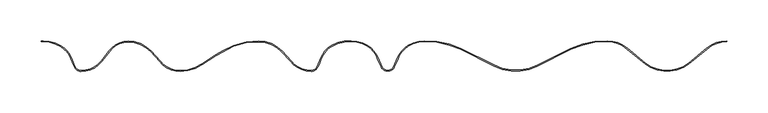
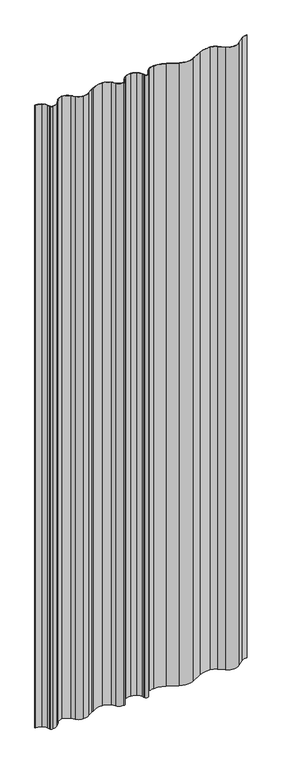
"""IFC4 building model written with IfcOpenShell, lengths in millimetres: plate geometry, Ritmica Couverture 834  : Ritmica Couverture 834 ."""

from ifc_helpers import new_model, si_unit, frame, origin, place, context, project, spatial, polyline, circle_curve, source, transform, mapped, element, save
from ifc_brep_helpers import plane_surface, cylinder_surface, revolved_surface, advanced_brep


def plate_bd1eb400(model_context):
    return source(origin(), model_context, "Body", "AdvancedBrep", [
        advanced_brep(
        [(-393.2391095, 30.1226373, 2588.190451), (-380.7879331, 15.3736407, 2588.190451), (-377.9067417, 8.1790879, 2588.190451), (-376.2463069, 4.7145146, 2588.190451), (-368.2557839, -0.3170511, 2588.190451), (-343.2838778, 11.7172084, 2588.190451), (-333.7374268, 23.7028833, 2588.190451), (-311.262648, 35.6878494, 2588.190451), (-283.7949346, 23.6921656, 2588.190451), (-272.6874551, 11.7053584, 2588.190451), (-247.7168686, -0.3316391, 2588.190451), (-220.9862336, 8.0906362, 2588.190451), (-203.6566719, 19.2268491, 2588.190451), (-196.2244931, 23.6239883, 2588.190451), (-152.05009, 35.8201732, 2588.190451), (-124.5823767, 23.8244894, 2588.190451), (-113.4748973, 11.8376824, 2588.190451), (-88.5011009, -0.1993146, 2588.190451), (-80.5132363, 4.8313742, 2588.190451), (-78.8524214, 8.2957655, 2588.190451), (-75.9704281, 15.4900347, 2588.190451), (-63.5176493, 30.2376326, 2588.190451), (-39.7563962, 35.9429092, 2588.190451), (-20.2159474, 30.4396884, 2588.190451), (-7.764771, 15.6906918, 2588.190451), (-4.8835795, 8.496139, 2588.190451), (-3.2231447, 5.0315657, 2588.190451), (12.7584529, 5.0306896, 2588.190451), (14.4192676, 8.4950807, 2588.190451), (17.3012479, 15.6893176, 2588.190451), (29.7540414, 30.4369489, 2588.190451), (49.2950931, 35.938027, 2588.190451), (93.042882, 26.7700498, 2588.190451), (133.5802573, 6.3859145, 2588.190451), (187.4841307, 6.3829593, 2588.190451), (228.0237409, 26.7626497, 2588.190451), (271.7725347, 35.9258301, 2588.190451), (295.5393439, 27.3213162, 2588.190451), (317.9693483, 8.6324584, 2588.190451), (370.826806, 8.6295606, 2588.190451), (393.5611737, 27.3160524, 2588.190451), (417.3292902, 35.9179602, 2588.190451), (417.3289811, 36.9179602, 2588.190451), (392.9211304, 28.0843912, 2588.190451), (370.2071227, 9.4148599, 2588.190451), (318.5891177, 9.4176897, 2588.190451), (296.1794714, 28.0895849, 2588.190451), (271.7903563, 36.925825, 2588.190451), (227.5823609, 27.6600121, 2588.190451), (187.0349808, 7.2764157, 2588.190451), (134.0295052, 7.2793217, 2588.190451), (93.4843603, 27.6673639, 2588.190451), (49.2773822, 36.9380239, 2588.190451), (29.2323103, 31.2900589, 2588.190451), (16.3728739, 16.060965, 2588.190451), (13.5032594, 8.8975968, 2588.190451), (11.8567174, 5.4629778, 2588.190451), (-2.3213618, 5.4637551, 2588.190451), (-3.9675273, 8.8985546, 2588.190451), (-6.8363563, 16.0622374, 2588.190451), (-19.6941227, 31.2927412, 2588.190451), (-39.7239663, 36.9428938, 2588.190451), (-64.0338883, 31.0941005, 2588.190451), (-76.898788, 15.8617171, 2588.190451), (-79.7684295, 8.6982816, 2588.190451), (-81.4149718, 5.2636625, 2588.190451), (-88.5014083, 0.8006853, 2588.190451), (-112.7156551, 12.4895917, 2588.190451), (-123.8488779, 24.5041802, 2588.190451), (-152.0390386, 36.820171, 2588.190451), (-196.7450486, 24.4779182, 2588.190451), (-204.1817534, 20.0781013, 2588.190451), (-221.54196, 8.9221955, 2588.190451), (-247.7186194, 0.668361, 2588.190451), (-271.9283027, 12.3573646, 2588.190451), (-283.0614359, 24.3718564, 2588.190451), (-311.2625931, 36.6878494, 2588.190451), (-334.5448543, 24.2942372, 2588.190451), (-344.0660847, 12.3402271, 2588.190451), (-368.2557291, 0.6829489, 2588.190451), (-375.344524, 5.146704, 2588.190451), (-376.9906894, 8.5815035, 2588.190451), (-379.8601107, 15.7466654, 2588.190451), (-392.7213947, 30.9782272, 2588.190451), (-414.3303399, 36.9167406, 2588.190451), (-417.0000403, 36.9178585, 2588.190451), (-416.9997311, 35.9178585, 2588.190451), (-414.3303953, 35.9186838, 2588.190451), (-393.2391095, 30.1226373, 0.0), (-414.3303947, 35.9167406, 0.0), (-416.9997311, 35.9178585, 0.0), (-417.0000403, 36.9178585, 0.0), (-414.3307045, 36.9186837, 0.0), (-392.7213947, 30.9782272, 0.0), (-379.8601107, 15.7466654, 0.0), (-376.9906894, 8.5815035, 0.0), (-375.344524, 5.146704, 0.0), (-368.2557291, 0.6829489, 0.0), (-344.0660847, 12.3402271, 0.0), (-334.5448543, 24.2942372, 0.0), (-311.2625931, 36.6878494, 0.0), (-283.0614359, 24.3718564, 0.0), (-271.9283027, 12.3573646, 0.0), (-247.7186194, 0.668361, 0.0), (-221.54196, 8.9221955, 0.0), (-204.1817534, 20.0781013, 0.0), (-196.7450486, 24.4779182, 0.0), (-152.0390386, 36.820171, 0.0), (-123.8488779, 24.5041802, 0.0), (-112.7156551, 12.4895917, 0.0), (-88.5014083, 0.8006853, 0.0), (-81.4149718, 5.2636625, 0.0), (-79.7684295, 8.6982816, 0.0), (-76.898788, 15.8617171, 0.0), (-64.0338883, 31.0941005, 0.0), (-39.7239663, 36.9428938, 0.0), (-19.6941227, 31.2927412, 0.0), (-6.8363563, 16.0622374, 0.0), (-3.9675273, 8.8985546, 0.0), (-2.3213618, 5.4637551, 0.0), (11.8567174, 5.4629778, 0.0), (13.5032594, 8.8975968, 0.0), (16.3728739, 16.060965, 0.0), (29.2323103, 31.2900589, 0.0), (49.2773822, 36.9380239, 0.0), (93.4843603, 27.6673639, 0.0), (134.0295052, 7.2793217, 0.0), (187.0349808, 7.2764157, 0.0), (227.5823609, 27.6600121, 0.0), (271.7903563, 36.925825, 0.0), (296.1794714, 28.0895849, 0.0), (318.5891177, 9.4176897, 0.0), (370.2071227, 9.4148599, 0.0), (392.9211304, 28.0843912, 0.0), (417.3289811, 36.9179602, 0.0), (417.3292902, 35.9179602, 0.0), (393.5611737, 27.3160524, 0.0), (370.826806, 8.6295606, 0.0), (317.9693483, 8.6324584, 0.0), (295.5393439, 27.3213162, 0.0), (271.7725347, 35.9258301, 0.0), (228.0237409, 26.7626497, 0.0), (187.4841307, 6.3829593, 0.0), (133.5802573, 6.3859145, 0.0), (93.042882, 26.7700498, 0.0), (49.2950931, 35.938027, 0.0), (29.7540414, 30.4369489, 0.0), (17.3012479, 15.6893176, 0.0), (14.4192676, 8.4950807, 0.0), (12.7584529, 5.0306896, 0.0), (-3.2231447, 5.0315657, 0.0), (-4.8835795, 8.496139, 0.0), (-7.764771, 15.6906918, 0.0), (-20.2159474, 30.4396884, 0.0), (-39.7563962, 35.9429092, 0.0), (-63.5176493, 30.2376326, 0.0), (-75.9704281, 15.4900347, 0.0), (-78.8524214, 8.2957655, 0.0), (-80.5132363, 4.8313742, 0.0), (-88.5011009, -0.1993146, 0.0), (-113.4748973, 11.8376824, 0.0), (-124.5823767, 23.8244894, 0.0), (-152.05009, 35.8201732, 0.0), (-196.2244931, 23.6239883, 0.0), (-203.6566719, 19.2268491, 0.0), (-220.9862336, 8.0906362, 0.0), (-247.7168686, -0.3316391, 0.0), (-272.6874551, 11.7053584, 0.0), (-283.7949346, 23.6921656, 0.0), (-311.262648, 35.6878494, 0.0), (-333.7374268, 23.7028833, 0.0), (-343.2838778, 11.7172084, 0.0), (-368.2557839, -0.3170511, 0.0), (-376.2463069, 4.7145146, 0.0), (-377.9067417, 8.1790879, 0.0), (-380.7879331, 15.3736407, 0.0)],
        [
            (0, 1, circle_curve(frame((-409.4563835, 3.801763, 2588.190451), z_axis=(0.0, 0.0, -1.0), x_axis=(-0.9999999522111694, -0.00030915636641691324, 0.0)), 30.9158276)),
            (1, 2),
            (2, 3),
            (3, 4, circle_curve(frame((-368.2552981, 8.5442934, 2588.190451), z_axis=(0.0, 0.0, 1.0), x_axis=(-0.9999999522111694, -0.00030915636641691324, 0.0)), 8.8613445)),
            (4, 5, circle_curve(frame((-368.2540338, 31.605648, 2588.190451), z_axis=(0.0, 0.0, 1.0), x_axis=(-0.9999999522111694, -0.00030915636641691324, 0.0)), 31.9226992)),
            (5, 6),
            (6, 7, circle_curve(frame((-311.2641316, 8.6252612, 2588.190451), z_axis=(0.0, 0.0, -1.0), x_axis=(-0.9999999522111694, -0.00030915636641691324, 0.0)), 27.0625882)),
            (7, 8, circle_curve(frame((-311.2647011, -1.762475, 2588.190451), z_axis=(0.0, 0.0, -1.0), x_axis=(-0.9999999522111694, -0.00030915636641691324, 0.0)), 37.4503244)),
            (8, 9),
            (9, 10, circle_curve(frame((-247.7151185, 31.59106, 2588.190451), z_axis=(0.0, 0.0, 1.0), x_axis=(-0.9999999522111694, -0.00030915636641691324, 0.0)), 31.9226992)),
            (10, 11, circle_curve(frame((-247.8850462, 46.8321336, 2588.190451), z_axis=(0.0, 0.0, 1.0), x_axis=(-0.9999999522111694, -0.00030915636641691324, 0.0)), 47.1640725)),
            (11, 12),
            (12, 13),
            (13, 14, circle_curve(frame((-153.802572, -43.929976, 2588.190451), z_axis=(0.0, 0.0, -1.0), x_axis=(-0.9999999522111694, -0.00030915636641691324, 0.0)), 79.769402)),
            (14, 15, circle_curve(frame((-152.0521432, -1.6301512, 2588.190451), z_axis=(0.0, 0.0, -1.0), x_axis=(-0.9999999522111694, -0.00030915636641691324, 0.0)), 37.4503244)),
            (15, 16),
            (16, 17, circle_curve(frame((-88.5109087, 31.7060655, 2588.190451), z_axis=(0.0, 0.0, 1.0), x_axis=(-0.9999999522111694, -0.00030915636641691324, 0.0)), 31.9053816)),
            (17, 18, circle_curve(frame((-88.5038249, 8.6620294, 2588.190451), z_axis=(0.0, 0.0, 1.0), x_axis=(-0.9999999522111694, -0.00030915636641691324, 0.0)), 8.8613444)),
            (18, 19),
            (19, 20),
            (20, 21, circle_curve(frame((-47.5439746, 4.1182392, 2588.190451), z_axis=(0.0, 0.0, -1.0), x_axis=(-0.9999999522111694, -0.00030915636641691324, 0.0)), 30.6166783)),
            (21, 22, circle_curve(frame((-42.427991, -5.2633706, 2588.190451), z_axis=(0.0, 0.0, -1.0), x_axis=(-0.9999999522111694, -0.00030915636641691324, 0.0)), 41.2927948)),
            (22, 23, circle_curve(frame((-39.758449, -1.5074152, 2588.190451), z_axis=(0.0, 0.0, -1.0), x_axis=(-0.9999999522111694, -0.00030915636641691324, 0.0)), 37.4503244)),
            (23, 24, circle_curve(frame((-36.1924841, 4.3220457, 2588.190451), z_axis=(0.0, 0.0, -1.0), x_axis=(-0.9999999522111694, -0.00030915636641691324, 0.0)), 30.6166783)),
            (24, 25),
            (25, 26),
            (26, 27, circle_curve(frame((4.7678641, 8.8613445, 2588.190451), z_axis=(0.0, 0.0, 1.0), x_axis=(-0.9999999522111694, -0.00030915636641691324, 0.0)), 8.8613445)),
            (27, 28),
            (28, 29),
            (29, 30, circle_curve(frame((45.7277143, 4.3175545, 2588.190451), z_axis=(0.0, 0.0, -1.0), x_axis=(-0.9999999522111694, -0.00030915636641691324, 0.0)), 30.6166783)),
            (30, 31, circle_curve(frame((49.29304, -1.5122973, 2588.190451), z_axis=(0.0, 0.0, -1.0), x_axis=(-0.9999999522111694, -0.00030915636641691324, 0.0)), 37.4503244)),
            (31, 32, circle_curve(frame((52.5908654, -57.297116, 2588.190451), z_axis=(0.0, 0.0, -1.0), x_axis=(-0.9999999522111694, -0.00030915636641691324, 0.0)), 93.293376)),
            (32, 33),
            (33, 34, circle_curve(frame((160.5351329, 59.9903423, 2588.190451), z_axis=(0.0, 0.0, 1.0), x_axis=(-0.9999999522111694, -0.00030915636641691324, 0.0)), 60.0)),
            (34, 35),
            (35, 36, circle_curve(frame((268.4665395, -57.308951, 2588.190451), z_axis=(0.0, 0.0, -1.0), x_axis=(-0.9999999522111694, -0.00030915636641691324, 0.0)), 93.293376)),
            (36, 37, circle_curve(frame((271.770499, -1.2055902, 2588.190451), z_axis=(0.0, 0.0, -1.0), x_axis=(-0.9999999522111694, -0.00030915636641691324, 0.0)), 37.1314203)),
            (37, 38),
            (38, 39, circle_curve(frame((344.4000154, 43.9851845, 2588.190451), z_axis=(0.0, 0.0, 1.0), x_axis=(-0.9999999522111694, -0.00030915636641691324, 0.0)), 44.1406321)),
            (39, 40),
            (40, 41, circle_curve(frame((417.3268906, -1.2134601, 2588.190451), z_axis=(0.0, 0.0, -1.0), x_axis=(-0.9999999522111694, -0.00030915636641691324, 0.0)), 37.1314203)),
            (41, 42),
            (42, 43, circle_curve(frame((417.3268906, -1.2134601, 2588.190451), z_axis=(0.0, 0.0, 1.0), x_axis=(-0.9999999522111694, -0.00030915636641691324, 0.0)), 38.1314203)),
            (43, 44),
            (44, 45, circle_curve(frame((344.4000154, 43.9851845, 2588.190451), z_axis=(0.0, 0.0, -1.0), x_axis=(-0.9999999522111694, -0.00030915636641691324, 0.0)), 43.1406321)),
            (45, 46),
            (46, 47, circle_curve(frame((271.770499, -1.2055902, 2588.190451), z_axis=(0.0, 0.0, 1.0), x_axis=(-0.9999999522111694, -0.00030915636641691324, 0.0)), 38.1314203)),
            (47, 48, circle_curve(frame((268.4665395, -57.308951, 2588.190451), z_axis=(0.0, 0.0, 1.0), x_axis=(-0.9999999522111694, -0.00030915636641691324, 0.0)), 94.293376)),
            (48, 49),
            (49, 50, circle_curve(frame((160.5351329, 59.9903423, 2588.190451), z_axis=(0.0, 0.0, -1.0), x_axis=(-0.9999999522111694, -0.00030915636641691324, 0.0)), 59.0)),
            (50, 51),
            (51, 52, circle_curve(frame((52.5908654, -57.297116, 2588.190451), z_axis=(0.0, 0.0, 1.0), x_axis=(-0.9999999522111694, -0.00030915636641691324, 0.0)), 94.293376)),
            (52, 53, circle_curve(frame((49.29304, -1.5122973, 2588.190451), z_axis=(0.0, 0.0, 1.0), x_axis=(-0.9999999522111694, -0.00030915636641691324, 0.0)), 38.4503244)),
            (53, 54, circle_curve(frame((45.7277143, 4.3175545, 2588.190451), z_axis=(0.0, 0.0, 1.0), x_axis=(-0.9999999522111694, -0.00030915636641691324, 0.0)), 31.6166783)),
            (54, 55),
            (55, 56),
            (56, 57, circle_curve(frame((4.7678641, 8.8613445, 2588.190451), z_axis=(0.0, 0.0, -1.0), x_axis=(-0.9999999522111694, -0.00030915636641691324, 0.0)), 7.8613445)),
            (57, 58),
            (58, 59),
            (59, 60, circle_curve(frame((-36.1924841, 4.3220457, 2588.190451), z_axis=(0.0, 0.0, 1.0), x_axis=(-0.9999999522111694, -0.00030915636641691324, 0.0)), 31.6166783)),
            (60, 61, circle_curve(frame((-39.758449, -1.5074152, 2588.190451), z_axis=(0.0, 0.0, 1.0), x_axis=(-0.9999999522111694, -0.00030915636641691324, 0.0)), 38.4503244)),
            (61, 62, circle_curve(frame((-42.427991, -5.2633706, 2588.190451), z_axis=(0.0, 0.0, 1.0), x_axis=(-0.9999999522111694, -0.00030915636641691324, 0.0)), 42.2927948)),
            (62, 63, circle_curve(frame((-47.5439746, 4.1182392, 2588.190451), z_axis=(0.0, 0.0, 1.0), x_axis=(-0.9999999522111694, -0.00030915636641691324, 0.0)), 31.6166782)),
            (63, 64),
            (64, 65),
            (65, 66, circle_curve(frame((-88.5038249, 8.6620294, 2588.190451), z_axis=(0.0, 0.0, -1.0), x_axis=(-0.9999999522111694, -0.00030915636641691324, 0.0)), 7.8613444)),
            (66, 67, circle_curve(frame((-88.5109087, 31.7060655, 2588.190451), z_axis=(0.0, 0.0, -1.0), x_axis=(-0.9999999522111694, -0.00030915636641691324, 0.0)), 30.9053816)),
            (67, 68),
            (68, 69, circle_curve(frame((-152.0521432, -1.6301512, 2588.190451), z_axis=(0.0, 0.0, 1.0), x_axis=(-0.9999999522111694, -0.00030915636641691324, 0.0)), 38.4503244)),
            (69, 70, circle_curve(frame((-153.802572, -43.929976, 2588.190451), z_axis=(0.0, 0.0, 1.0), x_axis=(-0.9999999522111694, -0.00030915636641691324, 0.0)), 80.769402)),
            (70, 71),
            (71, 72),
            (72, 73, circle_curve(frame((-247.8850462, 46.8321336, 2588.190451), z_axis=(0.0, 0.0, -1.0), x_axis=(-0.9999999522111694, -0.00030915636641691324, 0.0)), 46.1640725)),
            (73, 74, circle_curve(frame((-247.7151185, 31.59106, 2588.190451), z_axis=(0.0, 0.0, -1.0), x_axis=(-0.9999999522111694, -0.00030915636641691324, 0.0)), 30.9226992)),
            (74, 75),
            (75, 76, circle_curve(frame((-311.2647011, -1.762475, 2588.190451), z_axis=(0.0, 0.0, 1.0), x_axis=(-0.9999999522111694, -0.00030915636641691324, 0.0)), 38.4503244)),
            (76, 77, circle_curve(frame((-311.2641316, 8.6252612, 2588.190451), z_axis=(0.0, 0.0, 1.0), x_axis=(-0.9999999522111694, -0.00030915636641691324, 0.0)), 28.0625882)),
            (77, 78),
            (78, 79, circle_curve(frame((-368.2540338, 31.605648, 2588.190451), z_axis=(0.0, 0.0, -1.0), x_axis=(-0.9999999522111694, -0.00030915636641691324, 0.0)), 30.9226992)),
            (79, 80, circle_curve(frame((-368.2552981, 8.5442934, 2588.190451), z_axis=(0.0, 0.0, -1.0), x_axis=(-0.9999999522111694, -0.00030915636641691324, 0.0)), 7.8613445)),
            (80, 81),
            (81, 82),
            (82, 83, circle_curve(frame((-409.4563835, 3.801763, 2588.190451), z_axis=(0.0, 0.0, 1.0), x_axis=(-0.9999999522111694, -0.00030915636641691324, 0.0)), 31.9158276)),
            (83, 84, circle_curve(frame((-414.3326585, -5.3760542, 2588.190451), z_axis=(0.0, 0.0, 1.0), x_axis=(-0.9999999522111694, -0.00030915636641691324, 0.0)), 42.2927949)),
            (84, 85),
            (85, 86),
            (86, 87),
            (87, 0, circle_curve(frame((-414.3326585, -5.3760542, 2588.190451), z_axis=(0.0, 0.0, -1.0), x_axis=(-0.9999999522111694, -0.00030915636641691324, 0.0)), 41.2927949)),
            (88, 89, circle_curve(frame((-414.3326585, -5.3760542, 0.0), z_axis=(0.0, 0.0, 1.0), x_axis=(-0.9999999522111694, -0.00030915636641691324, 0.0)), 41.2927949)),
            (89, 90),
            (90, 91),
            (91, 92),
            (92, 93, circle_curve(frame((-414.3326585, -5.3760542, 0.0), z_axis=(0.0, 0.0, -1.0), x_axis=(-0.9999999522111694, -0.00030915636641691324, 0.0)), 42.2927949)),
            (93, 94, circle_curve(frame((-409.4563835, 3.801763, 0.0), z_axis=(0.0, 0.0, -1.0), x_axis=(-0.9999999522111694, -0.00030915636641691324, 0.0)), 31.9158276)),
            (94, 95),
            (95, 96),
            (96, 97, circle_curve(frame((-368.2552981, 8.5442934, 0.0), z_axis=(0.0, 0.0, 1.0), x_axis=(-0.9999999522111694, -0.00030915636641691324, 0.0)), 7.8613445)),
            (97, 98, circle_curve(frame((-368.2540338, 31.605648, 0.0), z_axis=(0.0, 0.0, 1.0), x_axis=(-0.9999999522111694, -0.00030915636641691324, 0.0)), 30.9226992)),
            (98, 99),
            (99, 100, circle_curve(frame((-311.2641316, 8.6252612, 0.0), z_axis=(0.0, 0.0, -1.0), x_axis=(-0.9999999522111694, -0.00030915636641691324, 0.0)), 28.0625882)),
            (100, 101, circle_curve(frame((-311.2647011, -1.762475, 0.0), z_axis=(0.0, 0.0, -1.0), x_axis=(-0.9999999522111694, -0.00030915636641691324, 0.0)), 38.4503244)),
            (101, 102),
            (102, 103, circle_curve(frame((-247.7151185, 31.59106, 0.0), z_axis=(0.0, 0.0, 1.0), x_axis=(-0.9999999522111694, -0.00030915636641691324, 0.0)), 30.9226992)),
            (103, 104, circle_curve(frame((-247.8850462, 46.8321336, 0.0), z_axis=(0.0, 0.0, 1.0), x_axis=(-0.9999999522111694, -0.00030915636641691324, 0.0)), 46.1640725)),
            (104, 105),
            (105, 106),
            (106, 107, circle_curve(frame((-153.802572, -43.929976, 0.0), z_axis=(0.0, 0.0, -1.0), x_axis=(-0.9999999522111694, -0.00030915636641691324, 0.0)), 80.769402)),
            (107, 108, circle_curve(frame((-152.0521432, -1.6301512, 0.0), z_axis=(0.0, 0.0, -1.0), x_axis=(-0.9999999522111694, -0.00030915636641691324, 0.0)), 38.4503244)),
            (108, 109),
            (109, 110, circle_curve(frame((-88.5109087, 31.7060655, 0.0), z_axis=(0.0, 0.0, 1.0), x_axis=(-0.9999999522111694, -0.00030915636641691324, 0.0)), 30.9053816)),
            (110, 111, circle_curve(frame((-88.5038249, 8.6620294, 0.0), z_axis=(0.0, 0.0, 1.0), x_axis=(-0.9999999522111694, -0.00030915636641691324, 0.0)), 7.8613444)),
            (111, 112),
            (112, 113),
            (113, 114, circle_curve(frame((-47.5439746, 4.1182392, 0.0), z_axis=(0.0, 0.0, -1.0), x_axis=(-0.9999999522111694, -0.00030915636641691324, 0.0)), 31.6166782)),
            (114, 115, circle_curve(frame((-42.427991, -5.2633706, 0.0), z_axis=(0.0, 0.0, -1.0), x_axis=(-0.9999999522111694, -0.00030915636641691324, 0.0)), 42.2927948)),
            (115, 116, circle_curve(frame((-39.758449, -1.5074152, 0.0), z_axis=(0.0, 0.0, -1.0), x_axis=(-0.9999999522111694, -0.00030915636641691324, 0.0)), 38.4503244)),
            (116, 117, circle_curve(frame((-36.1924841, 4.3220457, 0.0), z_axis=(0.0, 0.0, -1.0), x_axis=(-0.9999999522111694, -0.00030915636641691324, 0.0)), 31.6166783)),
            (117, 118),
            (118, 119),
            (119, 120, circle_curve(frame((4.7678641, 8.8613445, 0.0), z_axis=(0.0, 0.0, 1.0), x_axis=(-0.9999999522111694, -0.00030915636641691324, 0.0)), 7.8613445)),
            (120, 121),
            (121, 122),
            (122, 123, circle_curve(frame((45.7277143, 4.3175545, 0.0), z_axis=(0.0, 0.0, -1.0), x_axis=(-0.9999999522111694, -0.00030915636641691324, 0.0)), 31.6166783)),
            (123, 124, circle_curve(frame((49.29304, -1.5122973, 0.0), z_axis=(0.0, 0.0, -1.0), x_axis=(-0.9999999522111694, -0.00030915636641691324, 0.0)), 38.4503244)),
            (124, 125, circle_curve(frame((52.5908654, -57.297116, 0.0), z_axis=(0.0, 0.0, -1.0), x_axis=(-0.9999999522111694, -0.00030915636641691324, 0.0)), 94.293376)),
            (125, 126),
            (126, 127, circle_curve(frame((160.5351329, 59.9903423, 0.0), z_axis=(0.0, 0.0, 1.0), x_axis=(-0.9999999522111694, -0.00030915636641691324, 0.0)), 59.0)),
            (127, 128),
            (128, 129, circle_curve(frame((268.4665395, -57.308951, 0.0), z_axis=(0.0, 0.0, -1.0), x_axis=(-0.9999999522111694, -0.00030915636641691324, 0.0)), 94.293376)),
            (129, 130, circle_curve(frame((271.770499, -1.2055902, 0.0), z_axis=(0.0, 0.0, -1.0), x_axis=(-0.9999999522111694, -0.00030915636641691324, 0.0)), 38.1314203)),
            (130, 131),
            (131, 132, circle_curve(frame((344.4000154, 43.9851845, 0.0), z_axis=(0.0, 0.0, 1.0), x_axis=(-0.9999999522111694, -0.00030915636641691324, 0.0)), 43.1406321)),
            (132, 133),
            (133, 134, circle_curve(frame((417.3268906, -1.2134601, 0.0), z_axis=(0.0, 0.0, -1.0), x_axis=(-0.9999999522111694, -0.00030915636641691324, 0.0)), 38.1314203)),
            (134, 135),
            (135, 136, circle_curve(frame((417.3268906, -1.2134601, 0.0), z_axis=(0.0, 0.0, 1.0), x_axis=(-0.9999999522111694, -0.00030915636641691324, 0.0)), 37.1314203)),
            (136, 137),
            (137, 138, circle_curve(frame((344.4000154, 43.9851845, 0.0), z_axis=(0.0, 0.0, -1.0), x_axis=(-0.9999999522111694, -0.00030915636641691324, 0.0)), 44.1406321)),
            (138, 139),
            (139, 140, circle_curve(frame((271.770499, -1.2055902, 0.0), z_axis=(0.0, 0.0, 1.0), x_axis=(-0.9999999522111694, -0.00030915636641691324, 0.0)), 37.1314203)),
            (140, 141, circle_curve(frame((268.4665395, -57.308951, 0.0), z_axis=(0.0, 0.0, 1.0), x_axis=(-0.9999999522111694, -0.00030915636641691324, 0.0)), 93.293376)),
            (141, 142),
            (142, 143, circle_curve(frame((160.5351329, 59.9903423, 0.0), z_axis=(0.0, 0.0, -1.0), x_axis=(-0.9999999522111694, -0.00030915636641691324, 0.0)), 60.0)),
            (143, 144),
            (144, 145, circle_curve(frame((52.5908654, -57.297116, 0.0), z_axis=(0.0, 0.0, 1.0), x_axis=(-0.9999999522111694, -0.00030915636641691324, 0.0)), 93.293376)),
            (145, 146, circle_curve(frame((49.29304, -1.5122973, 0.0), z_axis=(0.0, 0.0, 1.0), x_axis=(-0.9999999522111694, -0.00030915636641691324, 0.0)), 37.4503244)),
            (146, 147, circle_curve(frame((45.7277143, 4.3175545, 0.0), z_axis=(0.0, 0.0, 1.0), x_axis=(-0.9999999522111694, -0.00030915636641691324, 0.0)), 30.6166783)),
            (147, 148),
            (148, 149),
            (149, 150, circle_curve(frame((4.7678641, 8.8613445, 0.0), z_axis=(0.0, 0.0, -1.0), x_axis=(-0.9999999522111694, -0.00030915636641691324, 0.0)), 8.8613445)),
            (150, 151),
            (151, 152),
            (152, 153, circle_curve(frame((-36.1924841, 4.3220457, 0.0), z_axis=(0.0, 0.0, 1.0), x_axis=(-0.9999999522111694, -0.00030915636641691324, 0.0)), 30.6166783)),
            (153, 154, circle_curve(frame((-39.758449, -1.5074152, 0.0), z_axis=(0.0, 0.0, 1.0), x_axis=(-0.9999999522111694, -0.00030915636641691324, 0.0)), 37.4503244)),
            (154, 155, circle_curve(frame((-42.427991, -5.2633706, 0.0), z_axis=(0.0, 0.0, 1.0), x_axis=(-0.9999999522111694, -0.00030915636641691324, 0.0)), 41.2927948)),
            (155, 156, circle_curve(frame((-47.5439746, 4.1182392, 0.0), z_axis=(0.0, 0.0, 1.0), x_axis=(-0.9999999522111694, -0.00030915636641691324, 0.0)), 30.6166783)),
            (156, 157),
            (157, 158),
            (158, 159, circle_curve(frame((-88.5038249, 8.6620294, 0.0), z_axis=(0.0, 0.0, -1.0), x_axis=(-0.9999999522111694, -0.00030915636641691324, 0.0)), 8.8613444)),
            (159, 160, circle_curve(frame((-88.5109087, 31.7060655, 0.0), z_axis=(0.0, 0.0, -1.0), x_axis=(-0.9999999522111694, -0.00030915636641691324, 0.0)), 31.9053816)),
            (160, 161),
            (161, 162, circle_curve(frame((-152.0521432, -1.6301512, 0.0), z_axis=(0.0, 0.0, 1.0), x_axis=(-0.9999999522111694, -0.00030915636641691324, 0.0)), 37.4503244)),
            (162, 163, circle_curve(frame((-153.802572, -43.929976, 0.0), z_axis=(0.0, 0.0, 1.0), x_axis=(-0.9999999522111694, -0.00030915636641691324, 0.0)), 79.769402)),
            (163, 164),
            (164, 165),
            (165, 166, circle_curve(frame((-247.8850462, 46.8321336, 0.0), z_axis=(0.0, 0.0, -1.0), x_axis=(-0.9999999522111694, -0.00030915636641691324, 0.0)), 47.1640725)),
            (166, 167, circle_curve(frame((-247.7151185, 31.59106, 0.0), z_axis=(0.0, 0.0, -1.0), x_axis=(-0.9999999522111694, -0.00030915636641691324, 0.0)), 31.9226992)),
            (167, 168),
            (168, 169, circle_curve(frame((-311.2647011, -1.762475, 0.0), z_axis=(0.0, 0.0, 1.0), x_axis=(-0.9999999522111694, -0.00030915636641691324, 0.0)), 37.4503244)),
            (169, 170, circle_curve(frame((-311.2641316, 8.6252612, 0.0), z_axis=(0.0, 0.0, 1.0), x_axis=(-0.9999999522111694, -0.00030915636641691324, 0.0)), 27.0625882)),
            (170, 171),
            (171, 172, circle_curve(frame((-368.2540338, 31.605648, 0.0), z_axis=(0.0, 0.0, -1.0), x_axis=(-0.9999999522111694, -0.00030915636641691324, 0.0)), 31.9226992)),
            (172, 173, circle_curve(frame((-368.2552981, 8.5442934, 0.0), z_axis=(0.0, 0.0, -1.0), x_axis=(-0.9999999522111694, -0.00030915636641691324, 0.0)), 8.8613445)),
            (173, 174),
            (174, 175),
            (175, 88, circle_curve(frame((-409.4563835, 3.801763, 0.0), z_axis=(0.0, 0.0, 1.0), x_axis=(-0.9999999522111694, -0.00030915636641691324, 0.0)), 30.9158276)),
            (87, 89),
            (88, 0),
            (175, 1),
            (174, 2),
            (173, 3),
            (172, 4),
            (171, 5),
            (170, 6),
            (169, 7),
            (168, 8),
            (167, 9),
            (166, 10),
            (165, 11),
            (164, 12),
            (163, 13),
            (162, 14),
            (161, 15),
            (160, 16),
            (159, 17),
            (158, 18),
            (157, 19),
            (156, 20),
            (155, 21),
            (154, 22),
            (153, 23),
            (152, 24),
            (151, 25),
            (150, 26),
            (149, 27),
            (148, 28),
            (147, 29),
            (146, 30),
            (145, 31),
            (144, 32),
            (143, 33),
            (142, 34),
            (141, 35),
            (140, 36),
            (139, 37),
            (138, 38),
            (137, 39),
            (136, 40),
            (135, 41),
            (134, 42),
            (133, 43),
            (132, 44),
            (131, 45),
            (130, 46),
            (129, 47),
            (128, 48),
            (127, 49),
            (126, 50),
            (125, 51),
            (124, 52),
            (123, 53),
            (122, 54),
            (121, 55),
            (120, 56),
            (119, 57),
            (118, 58),
            (117, 59),
            (116, 60),
            (115, 61),
            (114, 62),
            (113, 63),
            (112, 64),
            (111, 65),
            (110, 66),
            (109, 67),
            (108, 68),
            (107, 69),
            (106, 70),
            (105, 71),
            (104, 72),
            (103, 73),
            (102, 74),
            (101, 75),
            (100, 76),
            (99, 77),
            (98, 78),
            (97, 79),
            (96, 80),
            (95, 81),
            (94, 82),
            (93, 83),
            (92, 84),
            (91, 85),
            (90, 86),
        ],
        [
            plane_surface(frame((-440.3722096, 3.7922052, 2588.190451), z_axis=(0.0, 0.0, 1.0), x_axis=(-0.0003091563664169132, 0.9999999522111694, 0.0))),
            plane_surface(frame((-440.3722096, 3.7922052, 0.0), z_axis=(0.0, 0.0, -1.0), x_axis=(0.0003091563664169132, -0.9999999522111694, 0.0))),
            revolved_surface(polyline([(-455.6254514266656, -5.388820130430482, 0.0), (-455.6254514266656, -5.388820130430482, 2588.190451)]), (-414.3326585, -5.3760542, 0.0), (0.0, 0.0, -1.0)),
            revolved_surface(polyline([(-440.3722096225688, 3.792205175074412, 0.0), (-440.3722096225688, 3.792205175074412, 2588.190451)]), (-409.4563835, 3.801763, 0.0), (0.0, 0.0, -1.0)),
            plane_surface(frame((-380.7879331, 15.3736407, 2588.190451), z_axis=(-0.9283266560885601, -0.3717655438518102, 0.0), x_axis=(0.0, 0.0, -1.0))),
            plane_surface(frame((-377.9067417, 8.1790879, 2588.190451), z_axis=(-0.9017828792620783, -0.4321893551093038, 0.0), x_axis=(0.0, 0.0, -1.0))),
            cylinder_surface(frame((-368.2552981, 8.5442934, 0.0), z_axis=(0.0, 0.0, 1.0), x_axis=(-0.9999999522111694, -0.00030915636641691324, 0.0)), 8.8613445),
            cylinder_surface(frame((-368.2540338, 31.605648, 0.0), z_axis=(0.0, 0.0, 1.0), x_axis=(-0.9999999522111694, -0.00030915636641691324, 0.0)), 31.9226992),
            plane_surface(frame((-343.2838778, 11.7172084, 2588.190451), z_axis=(0.7822069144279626, -0.6230187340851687, 0.0), x_axis=(0.0, 0.0, -1.0))),
            revolved_surface(polyline([(-338.32671850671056, 8.616894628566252, 0.0), (-338.32671850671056, 8.616894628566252, 2588.190451)]), (-311.2641316, 8.6252612, 0.0), (0.0, 0.0, -1.0)),
            revolved_surface(polyline([(-348.7150237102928, -1.7740530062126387, 0.0), (-348.7150237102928, -1.7740530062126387, 2588.190451)]), (-311.2647011, -1.762475, 0.0), (0.0, 0.0, -1.0)),
            plane_surface(frame((-283.7949346, 23.6921656, 2588.190451), z_axis=(-0.733498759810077, -0.6796907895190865, 0.0), x_axis=(0.0, 0.0, -1.0))),
            cylinder_surface(frame((-247.7151185, 31.59106, 0.0), z_axis=(0.0, 0.0, 1.0), x_axis=(-0.9999999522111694, -0.00030915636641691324, 0.0)), 31.9226992),
            cylinder_surface(frame((-247.8850462, 46.8321336, 0.0), z_axis=(0.0, 0.0, 1.0), x_axis=(-0.9999999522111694, -0.00030915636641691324, 0.0)), 47.1640725),
            plane_surface(frame((-220.9862336, 8.0906362, 2588.190451), z_axis=(0.5406126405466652, -0.8412716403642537, 0.0), x_axis=(0.0, 0.0, -1.0))),
            plane_surface(frame((-203.6566719, 19.2268491, 2588.190451), z_axis=(0.5091924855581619, -0.8606526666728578, 0.0), x_axis=(0.0, 0.0, -1.0))),
            revolved_surface(polyline([(-233.57197018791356, -43.95463721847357, 0.0), (-233.57197018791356, -43.95463721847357, 2588.190451)]), (-153.802572, -43.929976, 0.0), (0.0, 0.0, -1.0)),
            revolved_surface(polyline([(-189.5024658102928, -1.6417292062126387, 0.0), (-189.5024658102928, -1.6417292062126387, 2588.190451)]), (-152.0521432, -1.6301512, 0.0), (0.0, 0.0, -1.0)),
            plane_surface(frame((-124.5823767, 23.8244894, 2588.190451), z_axis=(-0.7334987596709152, -0.6796907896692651, 0.0), x_axis=(0.0, 0.0, -1.0))),
            cylinder_surface(frame((-88.5109087, 31.7060655, 0.0), z_axis=(0.0, 0.0, 1.0), x_axis=(-0.9999999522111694, -0.00030915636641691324, 0.0)), 31.9053816),
            cylinder_surface(frame((-88.5038249, 8.6620294, 0.0), z_axis=(0.0, 0.0, 1.0), x_axis=(-0.9999999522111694, -0.00030915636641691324, 0.0)), 8.8613444),
            plane_surface(frame((-80.5132363, 4.8313742, 2588.190451), z_axis=(0.9017354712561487, -0.4322882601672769, 0.0), x_axis=(0.0, 0.0, -1.0))),
            plane_surface(frame((-78.8524214, 8.2957655, 2588.190451), z_axis=(0.9282858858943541, -0.371867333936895, 0.0), x_axis=(0.0, 0.0, -1.0))),
            revolved_surface(polyline([(-78.16065143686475, 4.108773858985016, 0.0), (-78.16065143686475, 4.108773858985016, 2588.190451)]), (-47.5439746, 4.1182392, 0.0), (0.0, 0.0, -1.0)),
            revolved_surface(polyline([(-83.72078382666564, -5.276136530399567, 0.0), (-83.72078382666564, -5.276136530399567, 2588.190451)]), (-42.427991, -5.2633706, 0.0), (0.0, 0.0, -1.0)),
            revolved_surface(polyline([(-77.20877161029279, -1.5189932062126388, 0.0), (-77.20877161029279, -1.5189932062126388, 2588.190451)]), (-39.758449, -1.5074152, 0.0), (0.0, 0.0, -1.0)),
            revolved_surface(polyline([(-66.80916093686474, 4.3125803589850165, 0.0), (-66.80916093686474, 4.3125803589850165, 2588.190451)]), (-36.1924841, 4.3220457, 0.0), (0.0, 0.0, -1.0)),
            plane_surface(frame((-7.764771, 15.6906918, 2588.190451), z_axis=(-0.9283266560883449, -0.3717655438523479, 0.0), x_axis=(0.0, 0.0, -1.0))),
            plane_surface(frame((-4.8835795, 8.496139, 2588.190451), z_axis=(-0.9017828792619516, -0.4321893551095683, 0.0), x_axis=(0.0, 0.0, -1.0))),
            cylinder_surface(frame((4.7678641, 8.8613445, 0.0), z_axis=(0.0, 0.0, 1.0), x_axis=(-0.9999999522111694, -0.00030915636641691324, 0.0)), 8.8613445),
            plane_surface(frame((12.7584529, 5.0306896, 2588.190451), z_axis=(0.901735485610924, -0.432288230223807, 0.0), x_axis=(0.0, 0.0, -1.0))),
            plane_surface(frame((14.4192676, 8.4950807, 2588.190451), z_axis=(0.9282858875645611, -0.3718673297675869, 0.0), x_axis=(0.0, 0.0, -1.0))),
            revolved_surface(polyline([(15.111037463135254, 4.308089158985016, 0.0), (15.111037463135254, 4.308089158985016, 2588.190451)]), (45.7277143, 4.3175545, 0.0), (0.0, 0.0, -1.0)),
            revolved_surface(polyline([(11.842717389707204, -1.5238753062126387, 0.0), (11.842717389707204, -1.5238753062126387, 2588.190451)]), (49.29304, -1.5122973, 0.0), (0.0, 0.0, -1.0)),
            revolved_surface(polyline([(-40.702506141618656, -57.32595824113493, 0.0), (-40.702506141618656, -57.32595824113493, 2588.190451)]), (52.5908654, -57.297116, 0.0), (0.0, 0.0, -1.0)),
            plane_surface(frame((93.042882, 26.7700498, 2588.190451), z_axis=(-0.4492479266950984, -0.8934071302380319, 0.0), x_axis=(0.0, 0.0, -1.0))),
            cylinder_surface(frame((160.5351329, 59.9903423, 0.0), z_axis=(0.0, 0.0, 1.0), x_axis=(-0.9999999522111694, -0.00030915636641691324, 0.0)), 60.0),
            plane_surface(frame((187.4841307, 6.3829593, 2588.190451), z_axis=(0.4491499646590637, -0.893456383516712, 0.0), x_axis=(0.0, 0.0, -1.0))),
            revolved_surface(polyline([(175.17316795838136, -57.337793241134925, 0.0), (175.17316795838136, -57.337793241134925, 2588.190451)]), (268.4665395, -57.308951, 0.0), (0.0, 0.0, -1.0)),
            revolved_surface(polyline([(234.6390804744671, -1.2170696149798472, 0.0), (234.6390804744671, -1.2170696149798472, 2588.190451)]), (271.770499, -1.2055902, 0.0), (0.0, 0.0, -1.0)),
            plane_surface(frame((295.5393439, 27.3213162, 2588.190451), z_axis=(-0.640127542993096, -0.7682686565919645, 0.0), x_axis=(0.0, 0.0, -1.0))),
            cylinder_surface(frame((344.4000154, 43.9851845, 0.0), z_axis=(0.0, 0.0, 1.0), x_axis=(-0.9999999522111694, -0.00030915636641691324, 0.0)), 44.1406321),
            plane_surface(frame((370.826806, 8.6295606, 2588.190451), z_axis=(0.6349794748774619, -0.7725290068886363, 0.0), x_axis=(0.0, 0.0, -1.0))),
            revolved_surface(polyline([(380.19547207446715, -1.2249395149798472, 0.0), (380.19547207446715, -1.2249395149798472, 2588.190451)]), (417.3268906, -1.2134601, 0.0), (0.0, 0.0, -1.0)),
            plane_surface(frame((417.3292902, 35.9179602, 2588.190451), z_axis=(0.9999999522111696, 0.00030915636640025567, 0.0), x_axis=(0.0, 0.0, -1.0))),
            cylinder_surface(frame((417.3268906, -1.2134601, 0.0), z_axis=(0.0, 0.0, 1.0), x_axis=(-0.9999999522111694, -0.00030915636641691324, 0.0)), 38.1314203),
            plane_surface(frame((392.9211304, 28.0843912, 2588.190451), z_axis=(-0.6349748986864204, 0.7725327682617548, 0.0), x_axis=(0.0, 0.0, -1.0))),
            revolved_surface(polyline([(301.25938536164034, 43.97184729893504, 0.0), (301.25938536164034, 43.97184729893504, 2588.190451)]), (344.4000154, 43.9851845, 0.0), (0.0, 0.0, -1.0)),
            plane_surface(frame((318.5891177, 9.4176897, 2588.190451), z_axis=(0.6401275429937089, 0.768268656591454, 0.0), x_axis=(0.0, 0.0, -1.0))),
            cylinder_surface(frame((271.770499, -1.2055902, 0.0), z_axis=(0.0, 0.0, 1.0), x_axis=(-0.9999999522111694, -0.00030915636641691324, 0.0)), 38.1314203),
            cylinder_surface(frame((268.4665395, -57.308951, 0.0), z_axis=(0.0, 0.0, 1.0), x_axis=(-0.9999999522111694, -0.00030915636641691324, 0.0)), 94.293376),
            plane_surface(frame((227.5823609, 27.6600121, 2588.190451), z_axis=(-0.44914996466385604, 0.8934563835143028, 0.0), x_axis=(0.0, 0.0, -1.0))),
            revolved_surface(polyline([(101.53513571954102, 59.972102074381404, 0.0), (101.53513571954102, 59.972102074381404, 2588.190451)]), (160.5351329, 59.9903423, 0.0), (0.0, 0.0, -1.0)),
            plane_surface(frame((134.0295052, 7.2793217, 2588.190451), z_axis=(0.4492479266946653, 0.8934071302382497, 0.0), x_axis=(0.0, 0.0, -1.0))),
            cylinder_surface(frame((52.5908654, -57.297116, 0.0), z_axis=(0.0, 0.0, 1.0), x_axis=(-0.9999999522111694, -0.00030915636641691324, 0.0)), 94.293376),
            cylinder_surface(frame((49.29304, -1.5122973, 0.0), z_axis=(0.0, 0.0, 1.0), x_axis=(-0.9999999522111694, -0.00030915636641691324, 0.0)), 38.4503244),
            cylinder_surface(frame((45.7277143, 4.3175545, 0.0), z_axis=(0.0, 0.0, 1.0), x_axis=(-0.9999999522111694, -0.00030915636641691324, 0.0)), 31.6166783),
            plane_surface(frame((16.3728739, 16.060965, 2588.190451), z_axis=(-0.9282858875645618, 0.37186732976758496, 0.0), x_axis=(0.0, 0.0, -1.0))),
            plane_surface(frame((13.5032594, 8.8975968, 2588.190451), z_axis=(-0.901735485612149, 0.4322882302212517, 0.0), x_axis=(0.0, 0.0, -1.0))),
            revolved_surface(polyline([(-3.0934800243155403, 8.858914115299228, 0.0), (-3.0934800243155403, 8.858914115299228, 2588.190451)]), (4.7678641, 8.8613445, 0.0), (0.0, 0.0, -1.0)),
            plane_surface(frame((-2.3213618, 5.4637551, 2588.190451), z_axis=(0.901782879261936, 0.4321893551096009, 0.0), x_axis=(0.0, 0.0, -1.0))),
            plane_surface(frame((-3.9675273, 8.8985546, 2588.190451), z_axis=(0.9283266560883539, 0.37176554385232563, 0.0), x_axis=(0.0, 0.0, -1.0))),
            cylinder_surface(frame((-36.1924841, 4.3220457, 0.0), z_axis=(0.0, 0.0, 1.0), x_axis=(-0.9999999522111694, -0.00030915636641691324, 0.0)), 31.6166783),
            cylinder_surface(frame((-39.758449, -1.5074152, 0.0), z_axis=(0.0, 0.0, 1.0), x_axis=(-0.9999999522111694, -0.00030915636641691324, 0.0)), 38.4503244),
            cylinder_surface(frame((-42.427991, -5.2633706, 0.0), z_axis=(0.0, 0.0, 1.0), x_axis=(-0.9999999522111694, -0.00030915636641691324, 0.0)), 42.2927948),
            cylinder_surface(frame((-47.5439746, 4.1182392, 0.0), z_axis=(0.0, 0.0, 1.0), x_axis=(-0.9999999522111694, -0.00030915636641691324, 0.0)), 31.6166782),
            plane_surface(frame((-76.898788, 15.8617171, 2588.190451), z_axis=(-0.9282858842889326, 0.3718673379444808, 0.0), x_axis=(0.0, 0.0, -1.0))),
            plane_surface(frame((-79.7684295, 8.6982816, 2588.190451), z_axis=(-0.9017354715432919, 0.4322882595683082, 0.0), x_axis=(0.0, 0.0, -1.0))),
            revolved_surface(polyline([(-96.36516892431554, 8.659599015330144, 0.0), (-96.36516892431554, 8.659599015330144, 2588.190451)]), (-88.5038249, 8.6620294, 0.0), (0.0, 0.0, -1.0)),
            revolved_surface(polyline([(-119.41628882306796, 31.696510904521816, 0.0), (-119.41628882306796, 31.696510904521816, 2588.190451)]), (-88.5109087, 31.7060655, 0.0), (0.0, 0.0, -1.0)),
            plane_surface(frame((-112.7156551, 12.4895917, 2588.190451), z_axis=(0.7334987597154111, 0.6796907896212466, 0.0), x_axis=(0.0, 0.0, -1.0))),
            cylinder_surface(frame((-152.0521432, -1.6301512, 0.0), z_axis=(0.0, 0.0, 1.0), x_axis=(-0.9999999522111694, -0.00030915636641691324, 0.0)), 38.4503244),
            cylinder_surface(frame((-153.802572, -43.929976, 0.0), z_axis=(0.0, 0.0, 1.0), x_axis=(-0.9999999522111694, -0.00030915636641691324, 0.0)), 80.769402),
            plane_surface(frame((-196.7450486, 24.4779182, 2588.190451), z_axis=(-0.5091924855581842, 0.8606526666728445, 0.0), x_axis=(0.0, 0.0, -1.0))),
            plane_surface(frame((-204.1817534, 20.0781013, 2588.190451), z_axis=(-0.5406126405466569, 0.841271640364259, 0.0), x_axis=(0.0, 0.0, -1.0))),
            revolved_surface(polyline([(-294.049116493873, 46.81786168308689, 0.0), (-294.049116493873, 46.81786168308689, 2588.190451)]), (-247.8850462, 46.8321336, 0.0), (0.0, 0.0, -1.0)),
            revolved_surface(polyline([(-278.63781622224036, 31.581500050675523, 0.0), (-278.63781622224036, 31.581500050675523, 2588.190451)]), (-247.7151185, 31.59106, 0.0), (0.0, 0.0, -1.0)),
            plane_surface(frame((-271.9283027, 12.3573646, 2588.190451), z_axis=(0.7334987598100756, 0.6796907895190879, 0.0), x_axis=(0.0, 0.0, -1.0))),
            cylinder_surface(frame((-311.2647011, -1.762475, 0.0), z_axis=(0.0, 0.0, 1.0), x_axis=(-0.9999999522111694, -0.00030915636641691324, 0.0)), 38.4503244),
            cylinder_surface(frame((-311.2641316, 8.6252612, 0.0), z_axis=(0.0, 0.0, 1.0), x_axis=(-0.9999999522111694, -0.00030915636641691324, 0.0)), 28.0625882),
            plane_surface(frame((-334.5448543, 24.2942372, 2588.190451), z_axis=(-0.782206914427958, 0.6230187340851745, 0.0), x_axis=(0.0, 0.0, -1.0))),
            revolved_surface(polyline([(-399.17673152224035, 31.596088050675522, 0.0), (-399.17673152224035, 31.596088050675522, 2588.190451)]), (-368.2540338, 31.605648, 0.0), (0.0, 0.0, -1.0)),
            revolved_surface(polyline([(-376.11664222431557, 8.54186301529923, 0.0), (-376.11664222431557, 8.54186301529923, 2588.190451)]), (-368.2552981, 8.5442934, 0.0), (0.0, 0.0, -1.0)),
            plane_surface(frame((-375.344524, 5.146704, 2588.190451), z_axis=(0.9017828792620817, 0.4321893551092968, 0.0), x_axis=(0.0, 0.0, -1.0))),
            plane_surface(frame((-376.9906894, 8.5815035, 2588.190451), z_axis=(0.9283266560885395, 0.371765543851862, 0.0), x_axis=(0.0, 0.0, -1.0))),
            cylinder_surface(frame((-409.4563835, 3.801763, 0.0), z_axis=(0.0, 0.0, 1.0), x_axis=(-0.9999999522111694, -0.00030915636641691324, 0.0)), 31.9158276),
            cylinder_surface(frame((-414.3326585, -5.3760542, 0.0), z_axis=(0.0, 0.0, 1.0), x_axis=(-0.9999999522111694, -0.00030915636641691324, 0.0)), 42.2927949),
            plane_surface(frame((-414.3307045, 36.9186837, 2588.190451), z_axis=(-0.00030915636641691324, 0.9999999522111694, 0.0), x_axis=(0.0, 0.0, -1.0))),
            plane_surface(frame((-417.0000403, 36.9178585, 2588.190451), z_axis=(-0.9999999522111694, -0.0003091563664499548, 0.0), x_axis=(0.0, 0.0, -1.0))),
            plane_surface(frame((-416.9997311, 35.9178585, 2588.190451), z_axis=(0.0003091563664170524, -0.9999999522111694, 0.0), x_axis=(0.0, 0.0, -1.0))),
        ],
        [
            (0, [[1, 2, 3, 4, 5, 6, 7, 8, 9, 10, 11, 12, 13, 14, 15, 16, 17, 18, 19, 20, 21, 22, 23, 24, 25, 26, 27, 28, 29, 30, 31, 32, 33, 34, 35, 36, 37, 38, 39, 40, 41, 42, 43, 44, 45, 46, 47, 48, 49, 50, 51, 52, 53, 54, 55, 56, 57, 58, 59, 60, 61, 62, 63, 64, 65, 66, 67, 68, 69, 70, 71, 72, 73, 74, 75, 76, 77, 78, 79, 80, 81, 82, 83, 84, 85, 86, 87, 88]]),
            (1, [[89, 90, 91, 92, 93, 94, 95, 96, 97, 98, 99, 100, 101, 102, 103, 104, 105, 106, 107, 108, 109, 110, 111, 112, 113, 114, 115, 116, 117, 118, 119, 120, 121, 122, 123, 124, 125, 126, 127, 128, 129, 130, 131, 132, 133, 134, 135, 136, 137, 138, 139, 140, 141, 142, 143, 144, 145, 146, 147, 148, 149, 150, 151, 152, 153, 154, 155, 156, 157, 158, 159, 160, 161, 162, 163, 164, 165, 166, 167, 168, 169, 170, 171, 172, 173, 174, 175, 176]]),
            (2, [[-88, 177, -89, 178]]),
            (3, [[-1, -178, -176, 179]]),
            (4, [[-2, -179, -175, 180]]),
            (5, [[-3, -180, -174, 181]]),
            (6, [[-4, -181, -173, 182]]),
            (7, [[-5, -182, -172, 183]]),
            (8, [[-6, -183, -171, 184]]),
            (9, [[-7, -184, -170, 185]]),
            (10, [[-8, -185, -169, 186]]),
            (11, [[-9, -186, -168, 187]]),
            (12, [[-10, -187, -167, 188]]),
            (13, [[-11, -188, -166, 189]]),
            (14, [[-12, -189, -165, 190]]),
            (15, [[-13, -190, -164, 191]]),
            (16, [[-14, -191, -163, 192]]),
            (17, [[-15, -192, -162, 193]]),
            (18, [[-16, -193, -161, 194]]),
            (19, [[-17, -194, -160, 195]]),
            (20, [[-18, -195, -159, 196]]),
            (21, [[-19, -196, -158, 197]]),
            (22, [[-20, -197, -157, 198]]),
            (23, [[-21, -198, -156, 199]]),
            (24, [[-22, -199, -155, 200]]),
            (25, [[-23, -200, -154, 201]]),
            (26, [[-24, -201, -153, 202]]),
            (27, [[-25, -202, -152, 203]]),
            (28, [[-26, -203, -151, 204]]),
            (29, [[-27, -204, -150, 205]]),
            (30, [[-28, -205, -149, 206]]),
            (31, [[-29, -206, -148, 207]]),
            (32, [[-30, -207, -147, 208]]),
            (33, [[-31, -208, -146, 209]]),
            (34, [[-32, -209, -145, 210]]),
            (35, [[-33, -210, -144, 211]]),
            (36, [[-34, -211, -143, 212]]),
            (37, [[-35, -212, -142, 213]]),
            (38, [[-36, -213, -141, 214]]),
            (39, [[-37, -214, -140, 215]]),
            (40, [[-38, -215, -139, 216]]),
            (41, [[-39, -216, -138, 217]]),
            (42, [[-40, -217, -137, 218]]),
            (43, [[-41, -218, -136, 219]]),
            (44, [[-42, -219, -135, 220]]),
            (45, [[-43, -220, -134, 221]]),
            (46, [[-44, -221, -133, 222]]),
            (47, [[-45, -222, -132, 223]]),
            (48, [[-46, -223, -131, 224]]),
            (49, [[-47, -224, -130, 225]]),
            (50, [[-48, -225, -129, 226]]),
            (51, [[-49, -226, -128, 227]]),
            (52, [[-50, -227, -127, 228]]),
            (53, [[-51, -228, -126, 229]]),
            (54, [[-52, -229, -125, 230]]),
            (55, [[-53, -230, -124, 231]]),
            (56, [[-54, -231, -123, 232]]),
            (57, [[-55, -232, -122, 233]]),
            (58, [[-56, -233, -121, 234]]),
            (59, [[-57, -234, -120, 235]]),
            (60, [[-58, -235, -119, 236]]),
            (61, [[-59, -236, -118, 237]]),
            (62, [[-60, -237, -117, 238]]),
            (63, [[-61, -238, -116, 239]]),
            (64, [[-62, -239, -115, 240]]),
            (65, [[-63, -240, -114, 241]]),
            (66, [[-64, -241, -113, 242]]),
            (67, [[-65, -242, -112, 243]]),
            (68, [[-66, -243, -111, 244]]),
            (69, [[-67, -244, -110, 245]]),
            (70, [[-68, -245, -109, 246]]),
            (71, [[-69, -246, -108, 247]]),
            (72, [[-70, -247, -107, 248]]),
            (73, [[-71, -248, -106, 249]]),
            (74, [[-72, -249, -105, 250]]),
            (75, [[-73, -250, -104, 251]]),
            (76, [[-74, -251, -103, 252]]),
            (77, [[-75, -252, -102, 253]]),
            (78, [[-76, -253, -101, 254]]),
            (79, [[-77, -254, -100, 255]]),
            (80, [[-78, -255, -99, 256]]),
            (81, [[-79, -256, -98, 257]]),
            (82, [[-80, -257, -97, 258]]),
            (83, [[-81, -258, -96, 259]]),
            (84, [[-82, -259, -95, 260]]),
            (85, [[-83, -260, -94, 261]]),
            (86, [[-84, -261, -93, 262]]),
            (87, [[-85, -262, -92, 263]]),
            (88, [[-86, -263, -91, 264]]),
            (89, [[-87, -264, -90, -177]]),
        ],
    ),
    ])


if __name__ == "__main__":
    model = new_model("IFC4")
    model_context = context("Model", 3, world=origin())
    ifc_project = project(units=[si_unit("LENGTHUNIT", "METRE", prefix="MILLI")], contexts=[model_context])
    site = spatial("IfcSite", under=ifc_project)
    building = spatial("IfcBuilding", under=site)
    placement = place(None, origin())
    plate_shape = plate_bd1eb400(model_context)
    element("IfcPlate", 1, ObjectType="Ritmica Couverture 834  : Ritmica Couverture 834 ", at=placement, inside=building, context=model_context, shape_type="MappedRepresentation", body=[
        mapped(plate_shape, transform((0.0, 0.0, 0.0), x_axis=(1.0, 0.0, 0.0), y_axis=(0.0, 1.0, 0.0), z_axis=(0.0, 0.0, 1.0))),
    ])
    save(model, "model.ifc")
